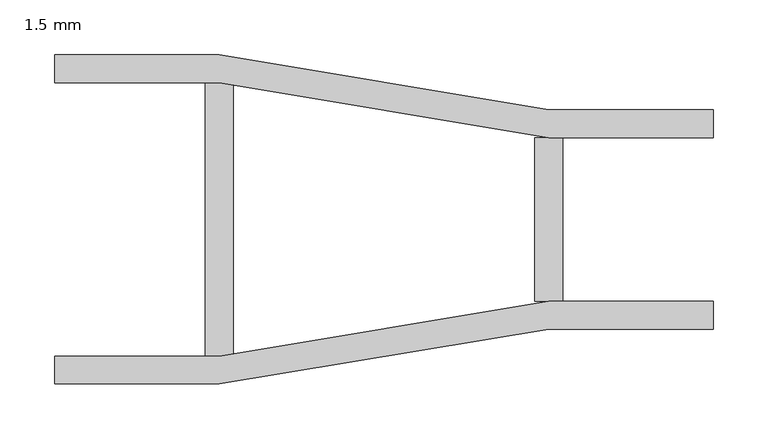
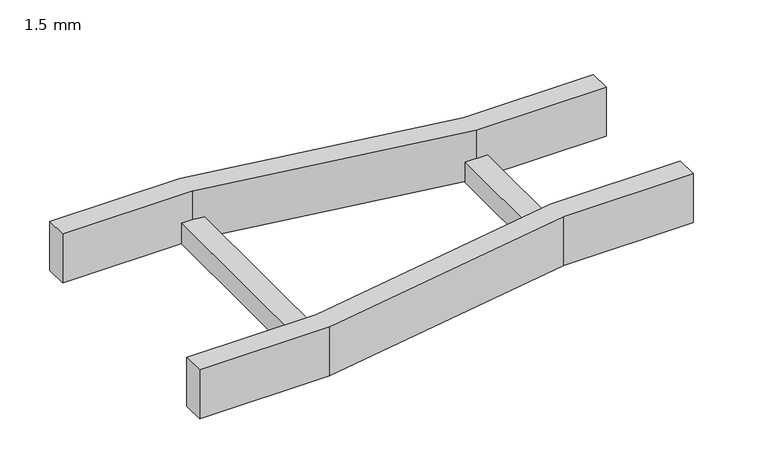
"""IFC4 building model written with IfcOpenShell, lengths in millimetres: cable carrier fitting geometry, BAKS_Redukcja_drabiny E90 : 1.5 mm."""

from ifc_helpers import new_model, si_unit, frame, origin, place, context, project, spatial, polyline, outline, extrude, source, transform, mapped, element, save


def cable_carrier_fitting_1_5_mm_74426db5(model_context):
    return source(origin(), model_context, "Body", "SweptSolid", [
        extrude(outline(polyline([(0.0, -150.0), (0.0, -124.6), (150.0, -124.6), (450.0, -74.6), (600.0, -74.6), (600.0, -100.0), (450.0, -100.0), (150.0, -150.0), (0.0, -150.0)])), frame((0.0, 0.0, -30.0), z_axis=(0.0, 0.0, 1.0), x_axis=(1.0, 0.0, 0.0)), (0.0, 0.0, 1.0), 60.0),
        extrude(outline(polyline([(0.0, 124.6), (0.0, 150.0), (150.0, 150.0), (450.0, 100.0), (600.0, 100.0), (600.0, 74.6), (450.0, 74.6), (150.0, 124.6), (0.0, 124.6)])), frame((0.0, 0.0, -30.0), z_axis=(0.0, 0.0, 1.0), x_axis=(1.0, 0.0, 0.0)), (0.0, 0.0, 1.0), 60.0),
        extrude(outline(polyline([(437.3, 74.6), (462.7, 74.6), (462.7, -74.6), (437.3, -74.6), (437.3, 74.6)])), frame((0.0, 0.0, -30.0), z_axis=(0.0, 0.0, 1.0), x_axis=(1.0, 0.0, 0.0)), (0.0, 0.0, 1.0), 25.4),
        extrude(outline(polyline([(137.3, 124.6), (162.7, 124.6), (162.7, -124.6), (137.3, -124.6), (137.3, 124.6)])), frame((0.0, 0.0, -30.0), z_axis=(0.0, 0.0, 1.0), x_axis=(1.0, 0.0, 0.0)), (0.0, 0.0, 1.0), 25.4),
    ])


if __name__ == "__main__":
    model = new_model("IFC4")
    model_context = context("Model", 3, world=origin())
    ifc_project = project(units=[si_unit("LENGTHUNIT", "METRE", prefix="MILLI")], contexts=[model_context])
    site = spatial("IfcSite", under=ifc_project)
    building = spatial("IfcBuilding", under=site)
    placement = place(None, origin())
    cable_carrier_fitting_1_5_mm_shape = cable_carrier_fitting_1_5_mm_74426db5(model_context)
    element("IfcCableCarrierFitting", 1, ObjectType="BAKS_Redukcja_drabiny E90 : 1.5 mm", at=placement, inside=building, context=model_context, shape_type="MappedRepresentation", body=[
        mapped(cable_carrier_fitting_1_5_mm_shape, transform((0.0, 0.0, 0.0), x_axis=(1.0, 0.0, 0.0), y_axis=(0.0, 1.0, 0.0), z_axis=(0.0, 0.0, 1.0))),
    ])
    save(model, "model.ifc")
